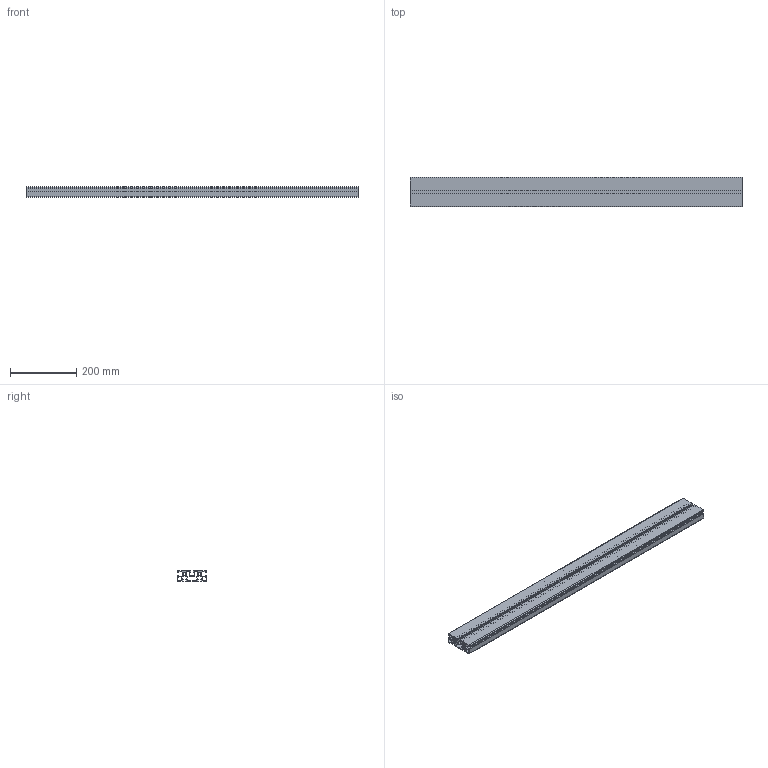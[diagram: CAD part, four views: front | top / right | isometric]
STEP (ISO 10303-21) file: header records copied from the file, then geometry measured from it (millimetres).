
FILE_DESCRIPTION (( 'STEP AP214' ), '1' );
FILE_NAME ('1.0208 90X32 musta 1000mm.STEP', '2026-03-17T13:04:39', ( '' ), ( '' ), 'SwSTEP 2.0', 'SolidWorks 2025', '' );
FILE_SCHEMA (( 'AUTOMOTIVE_DESIGN' ));
Length unit declared in the file: millimetre
Products named in the file (1): 1.0208 90X32 musta 1000mm
Bounding box: 1000 x 90 x 32 mm (x, y, z)
Volume: 1046751.9 mm3; surface area: 727403.1 mm2
Topology: 1 solids, 1 shells, 196 faces, 582 edges, 388 vertices
Faces by surface type: cylinder 102, plane 94
Entity records: 6673 total; most frequent: DIRECTION 1180, CARTESIAN_POINT 1167, ORIENTED_EDGE 1164, EDGE_CURVE 582, AXIS2_PLACEMENT_3D 401, VERTEX_POINT 388, LINE 378, VECTOR 378
